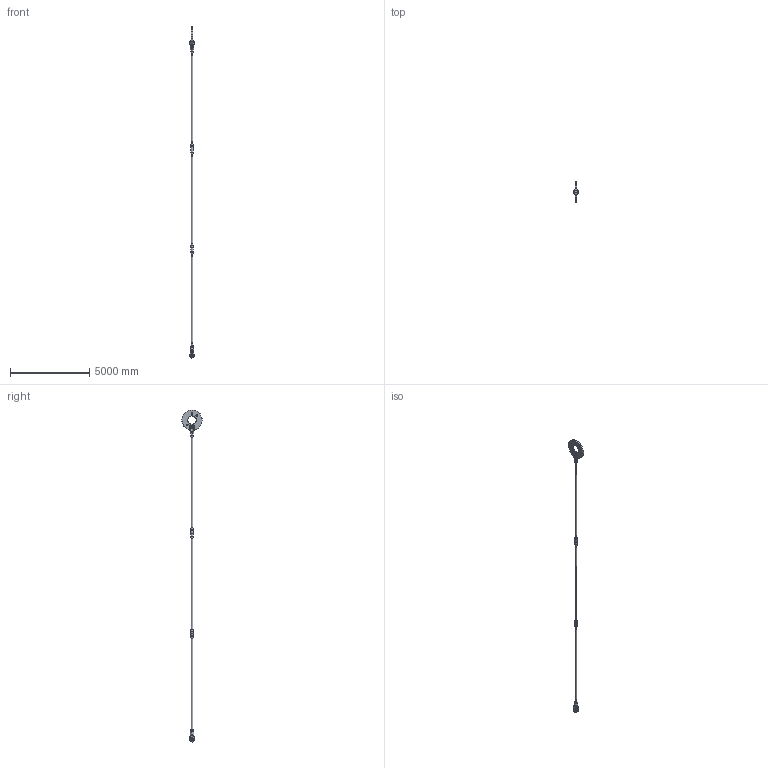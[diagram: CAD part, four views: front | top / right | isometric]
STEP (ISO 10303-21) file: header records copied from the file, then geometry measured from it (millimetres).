
FILE_DESCRIPTION(/* description */ (''),/* implementation_level */ '2;1');
FILE_NAME(/* name */ 'C:\Vault-WS\Anker\Werksnorm\Hochbau\ASDO-System\ASDO-S\für Kunden\3d\Step\M 105.stp',/* time_stamp */ '2014-06-12T09:50:38+02:00',/* author */ ('ritgen'),/* organization */ (''),/* preprocessor_version */ 'ST-DEVELOPER v15.2',/* originating_system */ 'Autodesk Inventor 2014',/* authorisation */ '');
FILE_SCHEMA (('AUTOMOTIVE_DESIGN { 1 0 10303 214 3 1 1 }'));
Length unit declared in the file: millimetre
Products named in the file (11): ASDO-005773; ASDO-014278; ASDO-014328; DIN 7991 - M20x50 - 8.8; ASDO-013947; ASDO-001735; ASDO-001368; ASDO-001467; ASDO-006471; ASDO-014059; ASDO-006470
Bounding box: 261 x 1273.79 x 20928.99 mm (x, y, z)
Volume: 305218318.4 mm3; surface area: 12278443.9 mm2
Topology: 24 solids, 24 shells, 501 faces, 1080 edges, 655 vertices
Faces by surface type: plane 152, bspline 144, cylinder 95, cone 60, torus 50
Full cylindrical faces by diameter (mm): 9 x18, 17.294 x4, 20 x4, 22.5 x4, 25 x4, 36 x4, 98.505 x12, 105 x5, 107 x7, 108 x8, 110 x7, 152 x10, 168.3 x2, 525 x1, 1275 x1
Entity records: 14044 total; most frequent: CARTESIAN_POINT 9773, ORIENTED_EDGE 754, DIRECTION 754, EDGE_CURVE 377, AXIS2_PLACEMENT_3D 355, EDGE_LOOP 344, VERTEX_POINT 271, ADVANCED_FACE 218
